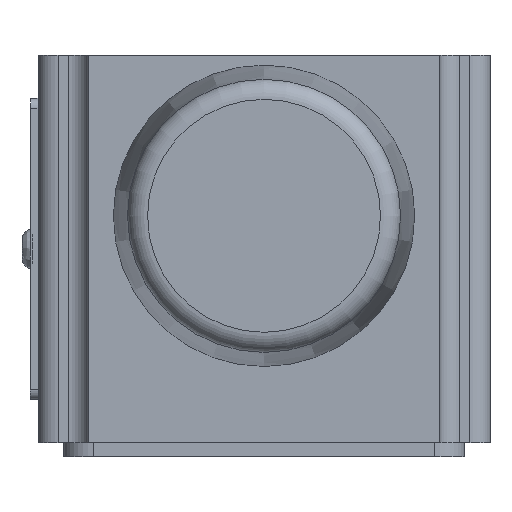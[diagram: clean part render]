
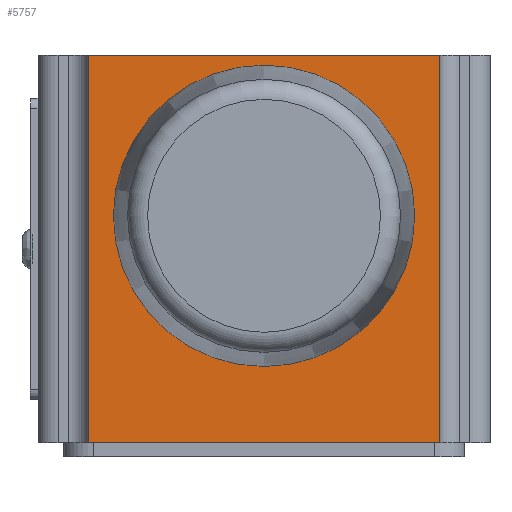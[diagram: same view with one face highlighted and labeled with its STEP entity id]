
A CAD part, left-side view. The second image highlights one B-rep face of the part: STEP entity #5757.
In plain terms, the highlighted planar face has unit normal (-1, 0, 0).
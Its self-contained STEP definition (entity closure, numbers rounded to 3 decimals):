
#987=FACE_BOUND('',#8286,.T.);
#988=FACE_BOUND('',#8287,.T.);
#2762=LINE('',#42252,#4439);
#2763=LINE('',#42260,#4440);
#2764=LINE('',#42262,#4441);
#2765=LINE('',#42264,#4442);
#4439=VECTOR('',#22469,1.);
#4440=VECTOR('',#22480,1.);
#4441=VECTOR('',#22481,1.);
#4442=VECTOR('',#22482,1.);
#5757=ADVANCED_FACE('',(#987,#988),#6524,.T.);
#6524=PLANE('',#18676);
#8286=EDGE_LOOP('',(#12357));
#8287=EDGE_LOOP('',(#12358,#12359,#12360,#12361));
#12357=ORIENTED_EDGE('',*,*,#16868,.F.);
#12358=ORIENTED_EDGE('',*,*,#16870,.F.);
#12359=ORIENTED_EDGE('',*,*,#16867,.F.);
#12360=ORIENTED_EDGE('',*,*,#16871,.T.);
#12361=ORIENTED_EDGE('',*,*,#16872,.T.);
#14634=VERTEX_POINT('',#42249);
#14635=VERTEX_POINT('',#42251);
#14636=VERTEX_POINT('',#42255);
#14638=VERTEX_POINT('',#42261);
#14639=VERTEX_POINT('',#42263);
#16867=EDGE_CURVE('',#14635,#14634,#2762,.T.);
#16868=EDGE_CURVE('',#14636,#14636,#17583,.T.);
#16870=EDGE_CURVE('',#14634,#14638,#2763,.T.);
#16871=EDGE_CURVE('',#14635,#14639,#2764,.T.);
#16872=EDGE_CURVE('',#14639,#14638,#2765,.T.);
#17583=CIRCLE('',#18672,13.25);
#18672=AXIS2_PLACEMENT_3D('',#42254,#22472,#22473);
#18676=AXIS2_PLACEMENT_3D('',#42265,#22483,#22484);
#22469=DIRECTION('',(0.,0.,-1.));
#22472=DIRECTION('',(-1.,0.,0.));
#22473=DIRECTION('',(0.,0.,1.));
#22480=DIRECTION('',(0.,1.,0.));
#22481=DIRECTION('',(0.,1.,0.));
#22482=DIRECTION('',(0.,0.,-1.));
#22483=DIRECTION('',(-1.,0.,0.));
#22484=DIRECTION('',(0.,0.,-1.));
#42249=CARTESIAN_POINT('',(-32.504,44.452,-0.006));
#42251=CARTESIAN_POINT('',(-32.504,44.452,38.594));
#42252=CARTESIAN_POINT('',(-32.504,44.452,38.594));
#42254=CARTESIAN_POINT('',(-32.504,61.952,22.594));
#42255=CARTESIAN_POINT('',(-32.504,61.952,35.844));
#42260=CARTESIAN_POINT('',(-32.504,44.452,-0.006));
#42261=CARTESIAN_POINT('',(-32.504,79.452,-0.006));
#42262=CARTESIAN_POINT('',(-32.504,44.452,38.594));
#42263=CARTESIAN_POINT('',(-32.504,79.452,38.594));
#42264=CARTESIAN_POINT('',(-32.504,79.452,38.594));
#42265=CARTESIAN_POINT('',(-32.504,44.452,38.594));
